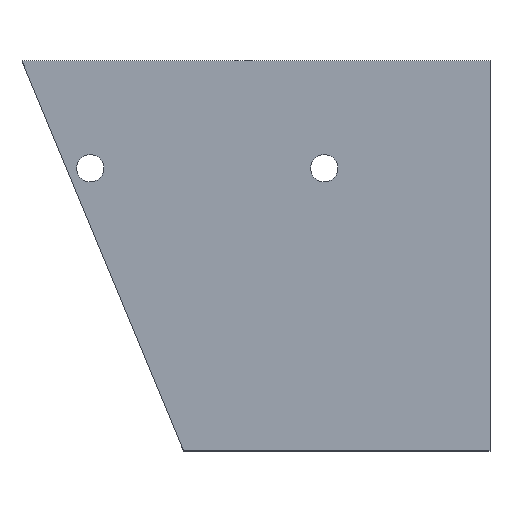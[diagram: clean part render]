
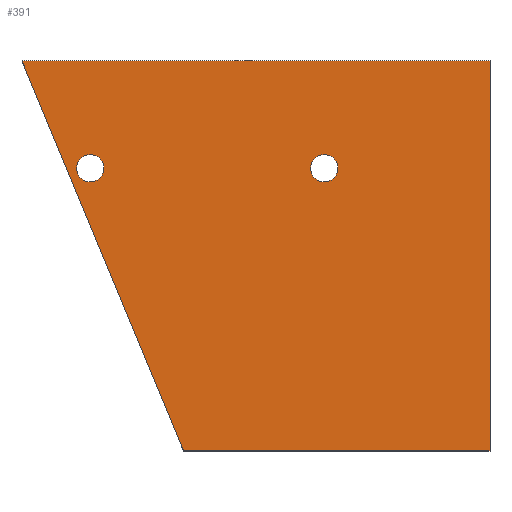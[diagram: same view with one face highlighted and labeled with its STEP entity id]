
A CAD part, top view. The second image highlights one B-rep face of the part: STEP entity #391.
In plain terms, the highlighted planar face has unit normal (0, 0, 1).
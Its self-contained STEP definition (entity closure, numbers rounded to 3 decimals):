
#184=CIRCLE('',#374,7.);
#185=CIRCLE('',#375,7.);
#192=ORIENTED_EDGE('',*,*,#260,.T.);
#193=ORIENTED_EDGE('',*,*,#261,.F.);
#194=ORIENTED_EDGE('',*,*,#256,.F.);
#195=ORIENTED_EDGE('',*,*,#262,.T.);
#196=ORIENTED_EDGE('',*,*,#263,.F.);
#197=ORIENTED_EDGE('',*,*,#264,.F.);
#220=VECTOR('',#302,1.);
#224=VECTOR('',#308,1.);
#225=VECTOR('',#309,1.);
#226=VECTOR('',#310,1.);
#232=LINE('',#339,#220);
#236=LINE('',#348,#224);
#237=LINE('',#349,#225);
#238=LINE('',#350,#226);
#244=VERTEX_POINT('',#337);
#245=VERTEX_POINT('',#338);
#248=VERTEX_POINT('',#346);
#249=VERTEX_POINT('',#347);
#250=VERTEX_POINT('',#351);
#251=VERTEX_POINT('',#353);
#256=EDGE_CURVE('',#244,#245,#232,.T.);
#260=EDGE_CURVE('',#248,#249,#236,.T.);
#261=EDGE_CURVE('',#245,#249,#237,.T.);
#262=EDGE_CURVE('',#244,#248,#238,.T.);
#263=EDGE_CURVE('',#250,#250,#184,.T.);
#264=EDGE_CURVE('',#251,#251,#185,.T.);
#273=EDGE_LOOP('',(#192,#193,#194,#195));
#274=EDGE_LOOP('',(#196));
#275=EDGE_LOOP('',(#197));
#287=FACE_BOUND('',#273,.T.);
#288=FACE_BOUND('',#274,.T.);
#289=FACE_BOUND('',#275,.T.);
#302=DIRECTION('',(-157.157,0.,0.));
#306=DIRECTION('',(0.,0.,1.));
#307=DIRECTION('',(0.,-1.,0.));
#308=DIRECTION('',(-240.,0.,0.));
#309=DIRECTION('',(-82.843,200.,0.));
#310=DIRECTION('',(0.,200.,0.));
#311=DIRECTION('',(0.,0.,1.));
#312=DIRECTION('',(0.,-7.,0.));
#313=DIRECTION('',(0.,0.,1.));
#314=DIRECTION('',(0.,-7.,0.));
#337=CARTESIAN_POINT('',(254.142,-200.,10.));
#338=CARTESIAN_POINT('',(96.985,-200.,10.));
#339=CARTESIAN_POINT('',(254.142,-200.,10.));
#345=CARTESIAN_POINT('',(254.142,0.,10.));
#346=CARTESIAN_POINT('',(254.142,0.,10.));
#347=CARTESIAN_POINT('',(14.142,0.,10.));
#348=CARTESIAN_POINT('',(254.142,0.,10.));
#349=CARTESIAN_POINT('',(96.985,-200.,10.));
#350=CARTESIAN_POINT('',(254.142,-200.,10.));
#351=CARTESIAN_POINT('',(169.142,-62.,10.));
#352=CARTESIAN_POINT('',(169.142,-55.,10.));
#353=CARTESIAN_POINT('',(49.142,-62.,10.));
#354=CARTESIAN_POINT('',(49.142,-55.,10.));
#373=AXIS2_PLACEMENT_3D('',#345,#306,#307);
#374=AXIS2_PLACEMENT_3D('',#352,#311,#312);
#375=AXIS2_PLACEMENT_3D('',#354,#313,#314);
#385=PLANE('',#373);
#391=ADVANCED_FACE('',(#287,#288,#289),#385,.T.);
